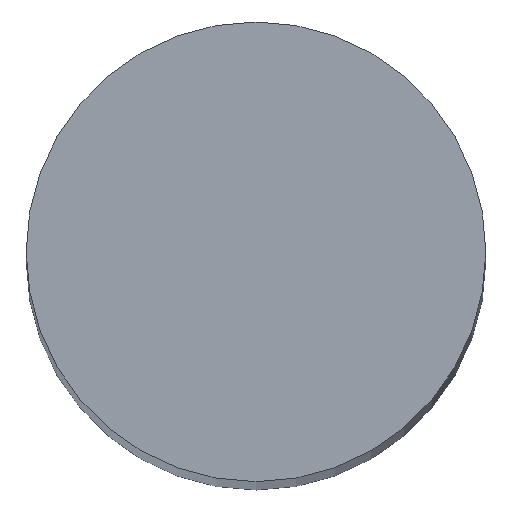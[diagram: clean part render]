
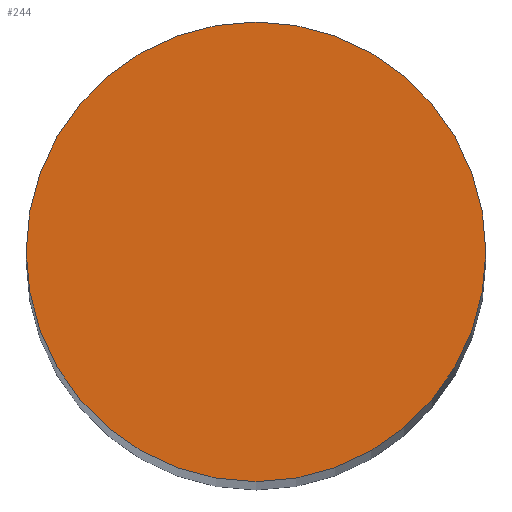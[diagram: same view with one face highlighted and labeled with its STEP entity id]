
A CAD part, top view. The second image highlights one B-rep face of the part: STEP entity #244.
In plain terms, the highlighted planar face has unit normal (0, 0, 1).
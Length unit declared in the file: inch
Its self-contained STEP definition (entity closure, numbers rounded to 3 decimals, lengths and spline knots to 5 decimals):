
#185=CARTESIAN_POINT('',(0.0,-0.0625,1.5));
#186=VERTEX_POINT('',#185);
#193=CARTESIAN_POINT('',(0.0,0.0625,1.5));
#194=VERTEX_POINT('',#193);
#195=CARTESIAN_POINT('',(0.0,0.0,1.5));
#196=DIRECTION('',(0.0,-0.0,-1.0));
#197=DIRECTION('',(0.0,1.0,-0.0));
#198=AXIS2_PLACEMENT_3D('',#195,#196,#197);
#199=CIRCLE('',#198,0.0625);
#200=EDGE_CURVE('no 1609',#186,#194,#199,.T.);
#220=CARTESIAN_POINT('',(0.0,0.0,1.5));
#221=DIRECTION('',(0.0,-0.0,-1.0));
#222=DIRECTION('',(0.0,1.0,-0.0));
#223=AXIS2_PLACEMENT_3D('',#220,#221,#222);
#224=CIRCLE('',#223,0.0625);
#225=EDGE_CURVE('no 1613',#194,#186,#224,.T.);
#235=ORIENTED_EDGE('',*,*,#200,.F.);
#236=ORIENTED_EDGE('',*,*,#225,.F.);
#237=EDGE_LOOP('',(#235,#236));
#238=FACE_OUTER_BOUND('',#237,.T.);
#239=CARTESIAN_POINT('',(0.0625,0.0,1.5));
#240=DIRECTION('',(0.0,0.0,1.0));
#241=DIRECTION('',(0.0,-1.0,0.0));
#242=AXIS2_PLACEMENT_3D('',#239,#240,#241);
#243=PLANE('',#242);
#244=ADVANCED_FACE('no 1737',(#238),#243,.T.);
